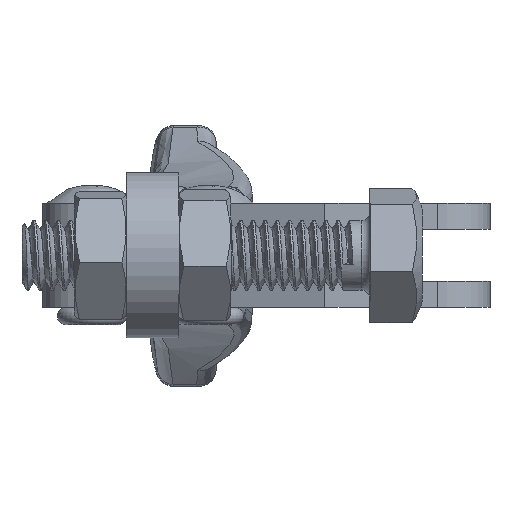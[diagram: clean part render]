
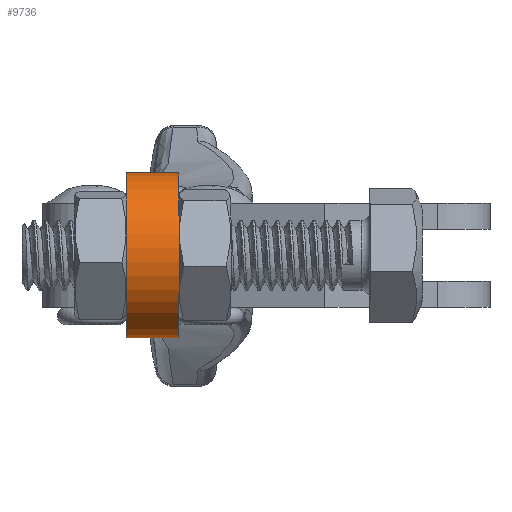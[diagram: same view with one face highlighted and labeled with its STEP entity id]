
A CAD part, left-side view. The second image highlights one B-rep face of the part: STEP entity #9736.
In plain terms, the highlighted cylindrical face has radius 4.75 mm (diameter 9.5 mm), a partial arc.
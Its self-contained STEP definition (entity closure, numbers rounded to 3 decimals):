
#1084=FACE_OUTER_BOUND('',#1631,.T.);
#1631=EDGE_LOOP('',(#6616,#6617,#6618,#6619));
#2244=LINE('',#13155,#3055);
#2245=LINE('',#13158,#3056);
#3055=VECTOR('',#11088,1000.);
#3056=VECTOR('',#11091,1000.);
#3869=CIRCLE('',#10448,4.75);
#3870=CIRCLE('',#10449,4.75);
#4095=VERTEX_POINT('',#13151);
#4096=VERTEX_POINT('',#13152);
#4097=VERTEX_POINT('',#13154);
#4098=VERTEX_POINT('',#13156);
#5106=EDGE_CURVE('',#4095,#4096,#3869,.T.);
#5107=EDGE_CURVE('',#4097,#4096,#2244,.T.);
#5108=EDGE_CURVE('',#4098,#4097,#3870,.T.);
#5109=EDGE_CURVE('',#4098,#4095,#2245,.T.);
#6616=ORIENTED_EDGE('',*,*,#5106,.T.);
#6617=ORIENTED_EDGE('',*,*,#5107,.F.);
#6618=ORIENTED_EDGE('',*,*,#5108,.F.);
#6619=ORIENTED_EDGE('',*,*,#5109,.T.);
#9629=CYLINDRICAL_SURFACE('',#10447,4.75);
#9736=ADVANCED_FACE('',(#1084),#9629,.T.);
#10447=AXIS2_PLACEMENT_3D('',#13150,#11084,#11085);
#10448=AXIS2_PLACEMENT_3D('',#13153,#11086,#11087);
#10449=AXIS2_PLACEMENT_3D('',#13157,#11089,#11090);
#11084=DIRECTION('center_axis',(0.,0.942,
0.337));
#11085=DIRECTION('ref_axis',(-1.,0.,0.));
#11086=DIRECTION('center_axis',(0.,0.942,
0.337));
#11087=DIRECTION('ref_axis',(0.,-0.337,0.942));
#11088=DIRECTION('',(0.,-0.942,-0.337));
#11089=DIRECTION('center_axis',(0.,0.942,
0.337));
#11090=DIRECTION('ref_axis',(0.,-0.337,0.942));
#11091=DIRECTION('',(0.,-0.942,-0.337));
#13150=CARTESIAN_POINT('Origin',(-23.5,1.938,0.995));
#13151=CARTESIAN_POINT('',(-20.289,3.116,-2.301));
#13152=CARTESIAN_POINT('',(-20.289,0.759,4.291));
#13153=CARTESIAN_POINT('Origin',(-23.5,1.938,0.995));
#13154=CARTESIAN_POINT('',(-20.289,3.584,5.301));
#13155=CARTESIAN_POINT('',(-20.289,2.172,4.796));
#13156=CARTESIAN_POINT('',(-20.289,5.941,-1.291));
#13157=CARTESIAN_POINT('Origin',(-23.5,4.762,2.005));
#13158=CARTESIAN_POINT('',(-20.289,4.528,-1.796));
